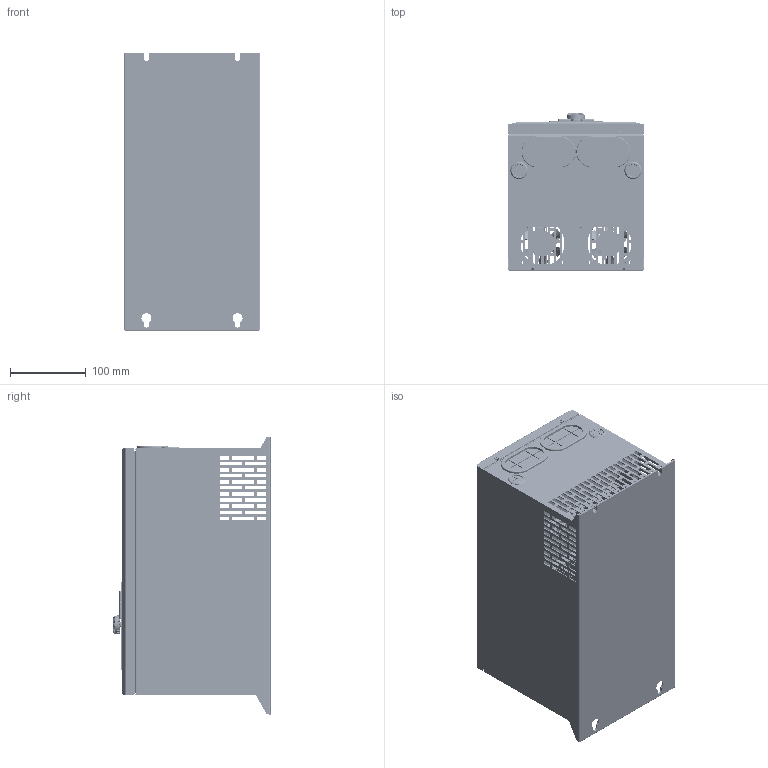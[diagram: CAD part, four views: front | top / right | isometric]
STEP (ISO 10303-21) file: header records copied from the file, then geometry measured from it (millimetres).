
FILE_DESCRIPTION(('STEP AP203'), '1');
FILE_NAME('BU-600-4 _ Òîðìîçíîé ìîäóëü', '2026-04-14T12:04:34', ('admin'), (''), 'C3D Converter', 'C3D Toolkit', '');
FILE_SCHEMA(('CONFIG_CONTROL_DESIGN'));
Length unit declared in the file: millimetre
Products named in the file (61): BU-600-4; CBR600-4T630-SPCC_ASM; CBR600-4T630-201_ASM; CBR600-4T630-301_ASM; CBR600-4T630-301; CBR600-4T630-302_ASM; CBR600-4T630-302; TPS-4-10-ZC; BSO-M4-10-ZC; CBR600-4T630-303_ASM; CBR600-4T630-303; S-M4-ZC; CBR600-4T630-304_ASM; CBR600-4T630-304; CBR600-4T630-305_ASM; CBR600-4T630-305; CBR600-4T630-402_ASM; CBR600-4T630-402; CBR600-4T630-403_ASM; CBR600-4T630-403; CBR600-4T630-404_ASM; CBR600-4T630-404; SO-3R5M3-6-ZC; CBR600-4T630-405_ASM; CBR600-4T630-405; S-M5-ZC; CBR600-4T630-SCREW_ASM; M8X20_GB9074_13_ASM; M8X20_GB29_2; D8_GB9074_26; D8_GB9074_24; CBR600-4T630-DEVICE_ASM; GM600-JP_ASM; GM600-JP-SJ_ASM; GM600-JP-SJ-01; GM600-JP-SJ-02; GM600-JP-SJ-03; GM600-JP-SJ-04; GM600-JP-PCB_ASM; GM600-JP-PCB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
Assembly tree (119 placements, depth 6):
  BU-600-4
    CBR600-4T630-SPCC_ASM
      CBR600-4T630-201_ASM
        CBR600-4T630-301_ASM
          CBR600-4T630-301
        CBR600-4T630-302_ASM
          CBR600-4T630-302
          TPS-4-10-ZC  x2
          BSO-M4-10-ZC  x6
        CBR600-4T630-303_ASM
          CBR600-4T630-303
          S-M4-ZC  x2
        CBR600-4T630-304_ASM  x2
          CBR600-4T630-304
          S-M4-ZC
        CBR600-4T630-305_ASM  x2
          CBR600-4T630-305
          S-M4-ZC
      CBR600-4T630-402_ASM
        CBR600-4T630-402
        TPS-4-10-ZC  x2
      CBR600-4T630-403_ASM
        CBR600-4T630-403
        S-M4-ZC  x11
      CBR600-4T630-404_ASM
        CBR600-4T630-404
        SO-3R5M3-6-ZC  x4
      CBR600-4T630-405_ASM
        CBR600-4T630-405
        S-M5-ZC  x9
    CBR600-4T630-SCREW_ASM
      M8X20_GB9074_13_ASM  x4
        M8X20_GB29_2
        D8_GB9074_26
        D8_GB9074_24
    CBR600-4T630-DEVICE_ASM
      GM600-JP_ASM
        GM600-JP-SJ_ASM
          GM600-JP-SJ-01
          GM600-JP-SJ-02
          GM600-JP-SJ-03
          GM600-JP-SJ-04
        GM600-JP-PCB_ASM
          GM600-JP-PCB
          PCB
          RJ45-GC186556
          LED50361
          DWQ
          ANJIAN  x5
        GM600-JP-SJ-05
        GM600-JP-SJ-06
        GM600-LCD-JP_ASM
          GM600-LCD-JP-SJ_ASM
            GM600-LCD-JP-SJ-01
            GM600-LCD-JP-SJ-02
          GM600-LCD-JP-PCB_ASM
            GM600-LCD-JP-PCB
            P
            ANJIAN  x8
            RJ45-GC186556
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Bounding box: 180 x 206.8 x 366.2 mm (x, y, z)
Volume: 1510157.3 mm3; surface area: 1671760.9 mm2
Topology: 113 solids, 113 shells, 18848 faces, 50637 edges, 32879 vertices
Faces by surface type: plane 14193, cylinder 2539, bspline 1330, cone 426, torus 181, extrusion 125, sphere 44, revolution 10
Full cylindrical faces by diameter (mm): 0.5 x18, 0.9 x16, 1 x58, 1.2 x4, 1.5 x1, 2 x20, 2.3 x6, 2.54 x1, 3 x14, 3.3 x1, 3.5 x13, 3.8 x4, 4 x41, 4.3 x16, 4.8 x6, 5 x34, 5.38 x21, 5.39 x4, 5.4 x27, 5.5 x17, 6 x23, 6.38 x9, 6.4 x1, 6.5 x4, 6.8 x1, 7.11 x6, 8 x33, 9 x9, 9.2 x1, 10 x4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
Entity records: 490265 total; most frequent: CARTESIAN_POINT 182521, ORIENTED_EDGE 50632, DIRECTION 39672, EDGE_CURVE 25316, VECTOR 16884, LINE 16759, VERTEX_POINT 16378, AXIS2_PLACEMENT_3D 11389
